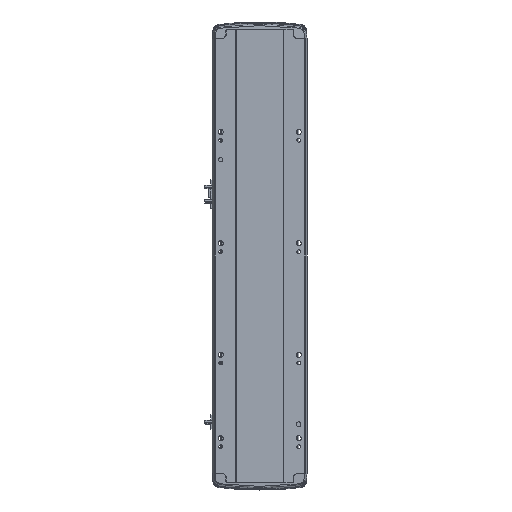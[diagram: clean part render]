
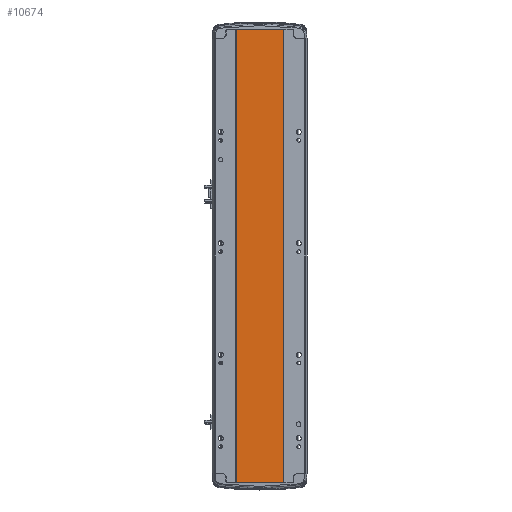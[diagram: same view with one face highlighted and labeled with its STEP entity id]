
A CAD part, front view. The second image highlights one B-rep face of the part: STEP entity #10674.
In plain terms, the highlighted planar face has unit normal (0, -1, 0).
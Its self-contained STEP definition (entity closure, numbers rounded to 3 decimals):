
#886 = FACE_OUTER_BOUND ( 'NONE', #13672, .T. ) ;
#1440 = ORIENTED_EDGE ( 'NONE', *, *, #30321, .T. ) ;
#2729 = VERTEX_POINT ( 'NONE', #26882 ) ;
#4000 = EDGE_CURVE ( 'NONE', #36415, #30575, #17990, .T. ) ;
#6033 = CARTESIAN_POINT ( 'NONE',  ( 41.793, 0.998, 0. ) ) ;
#6792 = DIRECTION ( 'NONE',  ( 0., 0., -1. ) ) ;
#7750 = CARTESIAN_POINT ( 'NONE',  ( 41.793, 0.998, 814.5 ) ) ;
#8515 = LINE ( 'NONE', #26835, #31679 ) ;
#8578 = AXIS2_PLACEMENT_3D ( 'NONE', #12878, #19111, #34347 ) ;
#10611 = VECTOR ( 'NONE', #13941, 1000. ) ;
#10674 = ADVANCED_FACE ( 'NONE', ( #886 ), #37461, .F. ) ;
#11878 = EDGE_CURVE ( 'NONE', #2729, #12735, #8515, .T. ) ;
#12735 = VERTEX_POINT ( 'NONE', #6033 ) ;
#12878 = CARTESIAN_POINT ( 'NONE',  ( 0., 0.999, 814.5 ) ) ;
#13658 = CARTESIAN_POINT ( 'NONE',  ( 41.793, 0.998, 814.5 ) ) ;
#13672 = EDGE_LOOP ( 'NONE', ( #30260, #32795, #19716, #1440 ) ) ;
#13941 = DIRECTION ( 'NONE',  ( 0., 0., -1. ) ) ;
#16181 = LINE ( 'NONE', #38051, #18128 ) ;
#17490 = VECTOR ( 'NONE', #22211, 1000. ) ;
#17990 = LINE ( 'NONE', #37551, #17490 ) ;
#18128 = VECTOR ( 'NONE', #6792, 1000. ) ;
#19111 = DIRECTION ( 'NONE',  ( 0., 1., 0. ) ) ;
#19716 = ORIENTED_EDGE ( 'NONE', *, *, #4000, .F. ) ;
#21949 = EDGE_CURVE ( 'NONE', #30575, #12735, #32342, .T. ) ;
#22211 = DIRECTION ( 'NONE',  ( 1., 0., 0. ) ) ;
#26835 = CARTESIAN_POINT ( 'NONE',  ( 0., 0.999, 0. ) ) ;
#26882 = CARTESIAN_POINT ( 'NONE',  ( -41.791, 1., 0. ) ) ;
#28426 = CARTESIAN_POINT ( 'NONE',  ( -41.791, 1., 814.5 ) ) ;
#29929 = DIRECTION ( 'NONE',  ( 1., 0., 0. ) ) ;
#30260 = ORIENTED_EDGE ( 'NONE', *, *, #11878, .T. ) ;
#30321 = EDGE_CURVE ( 'NONE', #36415, #2729, #16181, .T. ) ;
#30575 = VERTEX_POINT ( 'NONE', #13658 ) ;
#31679 = VECTOR ( 'NONE', #29929, 1000. ) ;
#32342 = LINE ( 'NONE', #7750, #10611 ) ;
#32795 = ORIENTED_EDGE ( 'NONE', *, *, #21949, .F. ) ;
#34347 = DIRECTION ( 'NONE',  ( -1., 0., 0. ) ) ;
#36415 = VERTEX_POINT ( 'NONE', #28426 ) ;
#37461 = PLANE ( 'NONE',  #8578 ) ;
#37551 = CARTESIAN_POINT ( 'NONE',  ( 0., 0.999, 814.5 ) ) ;
#38051 = CARTESIAN_POINT ( 'NONE',  ( -41.791, 1., 814.5 ) ) ;
